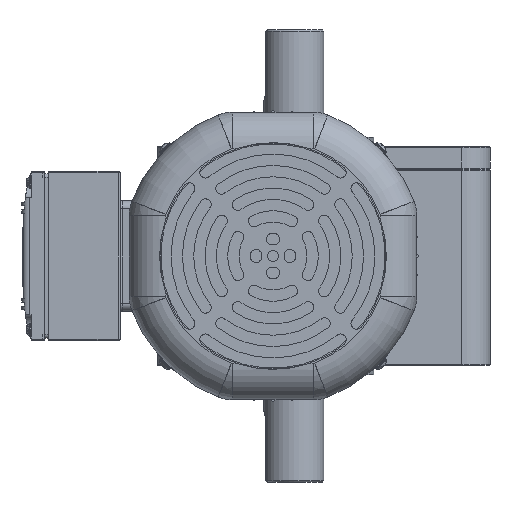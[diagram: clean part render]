
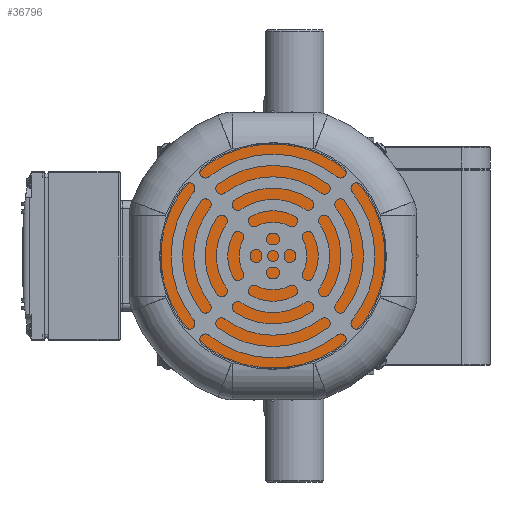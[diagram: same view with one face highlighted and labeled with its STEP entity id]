
A CAD part, left-side view. The second image highlights one B-rep face of the part: STEP entity #36796.
In plain terms, the highlighted planar face has unit normal (-1, 0, 0).
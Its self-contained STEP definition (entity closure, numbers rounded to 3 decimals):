
#1365=PLANE('',#40744);
#3284=FACE_OUTER_BOUND('',#5447,.T.);
#5447=EDGE_LOOP('',(#31557));
#7670=CIRCLE('',#40745,59.5);
#16606=VERTEX_POINT('',#66789);
#21679=EDGE_CURVE('',#16606,#16606,#7670,.T.);
#31557=ORIENTED_EDGE('',*,*,#21679,.F.);
#36796=ADVANCED_FACE('',(#3284),#1365,.F.);
#40744=AXIS2_PLACEMENT_3D('',#66788,#50962,#50963);
#40745=AXIS2_PLACEMENT_3D('',#66790,#50964,#50965);
#50962=DIRECTION('center_axis',(1.,0.,0.));
#50963=DIRECTION('ref_axis',(0.,-0.707,-0.707));
#50964=DIRECTION('center_axis',(1.,0.,0.));
#50965=DIRECTION('ref_axis',(0.,-0.707,-0.707));
#66788=CARTESIAN_POINT('Origin',(-368.2,11.,0.));
#66789=CARTESIAN_POINT('',(-368.2,53.073,42.073));
#66790=CARTESIAN_POINT('Origin',(-368.2,11.,0.));
